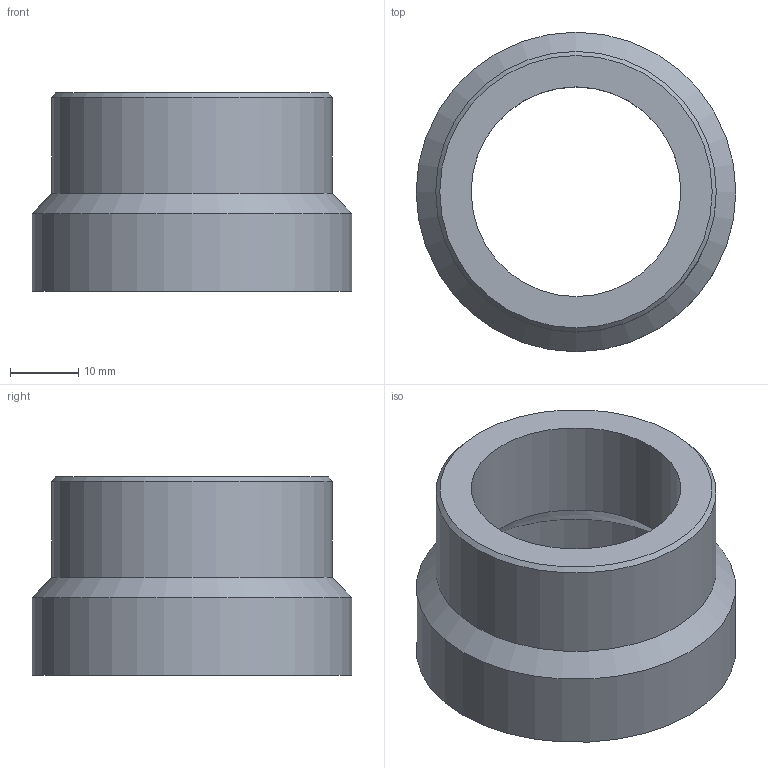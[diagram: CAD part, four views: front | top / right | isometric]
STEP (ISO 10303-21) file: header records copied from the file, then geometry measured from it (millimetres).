
FILE_DESCRIPTION(('Open CASCADE Model'),'2;1');
FILE_NAME('Open CASCADE Shape Model','2026-11-09T11:50:28',('Author'),( 'Open CASCADE'),'Open CASCADE STEP processor 7.8','Open CASCADE 7.8' ,'Unknown');
FILE_SCHEMA(('AUTOMOTIVE_DESIGN { 1 0 10303 214 1 1 1 1 }'));
Length unit declared in the file: millimetre
Products named in the file (1): Open CASCADE STEP translator 7.8 5
Bounding box: 46.8 x 46.8 x 29 mm (x, y, z)
Volume: 15323.2 mm3; surface area: 8478.8 mm2
Topology: 1 solids, 1 shells, 9 faces, 16 edges, 9 vertices
Faces by surface type: cylinder 4, cone 3, plane 2
Full cylindrical faces by diameter (mm): 30.7 x1, 41 x1, 41.1 x1, 46.8 x1
Entity records: 441 total; most frequent: DIRECTION 77, CARTESIAN_POINT 67, LINE 35, VECTOR 35, ORIENTED_EDGE 32, PCURVE 32, DEFINITIONAL_REPRESENTATION 32, AXIS2_PLACEMENT_3D 19
